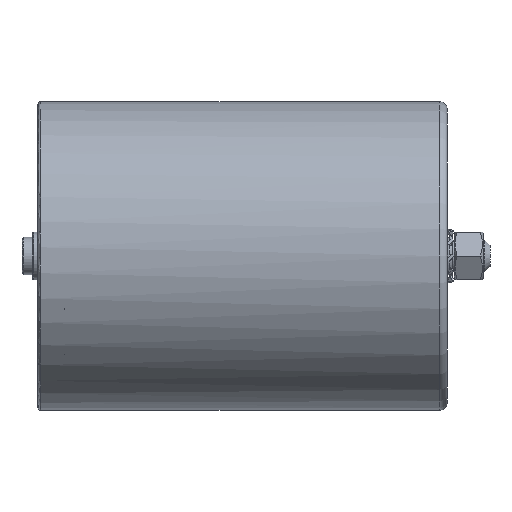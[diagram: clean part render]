
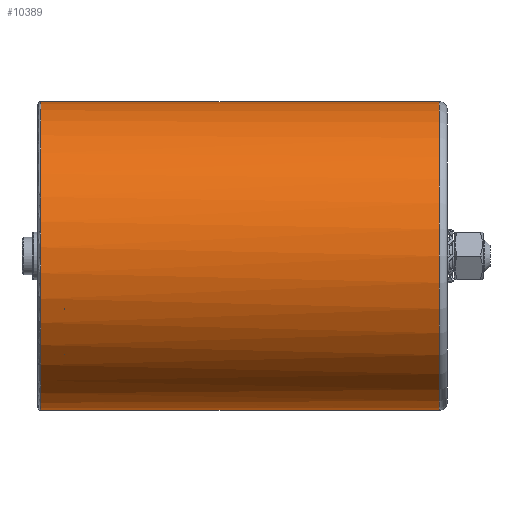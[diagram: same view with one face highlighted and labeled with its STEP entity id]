
A CAD part, left-side view. The second image highlights one B-rep face of the part: STEP entity #10389.
In plain terms, the highlighted cylindrical face has radius 58 mm (diameter 116 mm), a partial arc.
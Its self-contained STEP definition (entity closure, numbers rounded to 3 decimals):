
#9 = EDGE_CURVE ( 'NONE', #2141, #11537, #159, .T. ) ;
#154 = VERTEX_POINT ( 'NONE', #3688 ) ;
#159 = CIRCLE ( 'NONE', #8954, 58. ) ;
#643 = DIRECTION ( 'NONE',  ( -0.707, 0., -0.707 ) ) ;
#871 = CARTESIAN_POINT ( 'NONE',  ( 0., 3., 58. ) ) ;
#980 = LINE ( 'NONE', #9874, #7940 ) ;
#1038 = EDGE_LOOP ( 'NONE', ( #10938, #7199, #4661, #2735, #3560 ) ) ;
#1087 = VERTEX_POINT ( 'NONE', #871 ) ;
#1339 = DIRECTION ( 'NONE',  ( -0.707, 0., -0.707 ) ) ;
#1441 = DIRECTION ( 'NONE',  ( 0., 0., 1. ) ) ;
#1768 = AXIS2_PLACEMENT_3D ( 'NONE', #8402, #12292, #1441 ) ;
#1867 = CARTESIAN_POINT ( 'NONE',  ( 0., 144., 0. ) ) ;
#2141 = VERTEX_POINT ( 'NONE', #6260 ) ;
#2735 = ORIENTED_EDGE ( 'NONE', *, *, #4633, .T. ) ;
#2768 = VECTOR ( 'NONE', #2940, 1000. ) ;
#2940 = DIRECTION ( 'NONE',  ( 0., -1., 0. ) ) ;
#3391 = DIRECTION ( 'NONE',  ( 0., -1., 0. ) ) ;
#3511 = CARTESIAN_POINT ( 'NONE',  ( 0., 153., 0. ) ) ;
#3560 = ORIENTED_EDGE ( 'NONE', *, *, #6585, .T. ) ;
#3688 = CARTESIAN_POINT ( 'NONE',  ( 0., 153., 58. ) ) ;
#4442 = EDGE_CURVE ( 'NONE', #154, #2141, #12578, .T. ) ;
#4633 = EDGE_CURVE ( 'NONE', #11537, #11821, #11711, .T. ) ;
#4661 = ORIENTED_EDGE ( 'NONE', *, *, #9, .T. ) ;
#4800 = DIRECTION ( 'NONE',  ( 0., -1., 0. ) ) ;
#5458 = FACE_OUTER_BOUND ( 'NONE', #1038, .T. ) ;
#6260 = CARTESIAN_POINT ( 'NONE',  ( -41.012, 153., -41.012 ) ) ;
#6585 = EDGE_CURVE ( 'NONE', #11821, #1087, #8113, .T. ) ;
#6740 = CARTESIAN_POINT ( 'NONE',  ( 0., 153., -58. ) ) ;
#7199 = ORIENTED_EDGE ( 'NONE', *, *, #4442, .T. ) ;
#7940 = VECTOR ( 'NONE', #10886, 1000. ) ;
#8113 = CIRCLE ( 'NONE', #1768, 58. ) ;
#8239 = EDGE_CURVE ( 'NONE', #154, #1087, #980, .T. ) ;
#8402 = CARTESIAN_POINT ( 'NONE',  ( 0., 3., 0. ) ) ;
#8649 = CARTESIAN_POINT ( 'NONE',  ( 0., 3., -58. ) ) ;
#8703 = AXIS2_PLACEMENT_3D ( 'NONE', #3511, #3391, #643 ) ;
#8772 = CARTESIAN_POINT ( 'NONE',  ( 0., 144., -58. ) ) ;
#8954 = AXIS2_PLACEMENT_3D ( 'NONE', #12258, #10350, #1339 ) ;
#9376 = CYLINDRICAL_SURFACE ( 'NONE', #12031, 58. ) ;
#9874 = CARTESIAN_POINT ( 'NONE',  ( 0., 144., 58. ) ) ;
#10350 = DIRECTION ( 'NONE',  ( 0., -1., 0. ) ) ;
#10389 = ADVANCED_FACE ( 'NONE', ( #5458 ), #9376, .T. ) ;
#10886 = DIRECTION ( 'NONE',  ( 0., -1., 0. ) ) ;
#10938 = ORIENTED_EDGE ( 'NONE', *, *, #8239, .F. ) ;
#11174 = DIRECTION ( 'NONE',  ( 0., 0., -1. ) ) ;
#11537 = VERTEX_POINT ( 'NONE', #6740 ) ;
#11711 = LINE ( 'NONE', #8772, #2768 ) ;
#11821 = VERTEX_POINT ( 'NONE', #8649 ) ;
#12031 = AXIS2_PLACEMENT_3D ( 'NONE', #1867, #4800, #11174 ) ;
#12258 = CARTESIAN_POINT ( 'NONE',  ( 0., 153., 0. ) ) ;
#12292 = DIRECTION ( 'NONE',  ( 0., 1., 0. ) ) ;
#12578 = CIRCLE ( 'NONE', #8703, 58. ) ;
